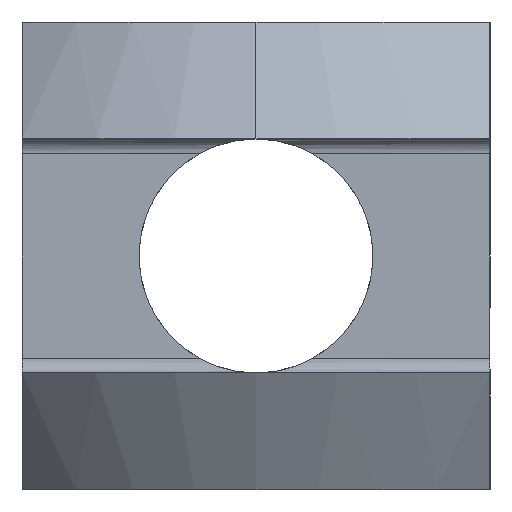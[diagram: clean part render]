
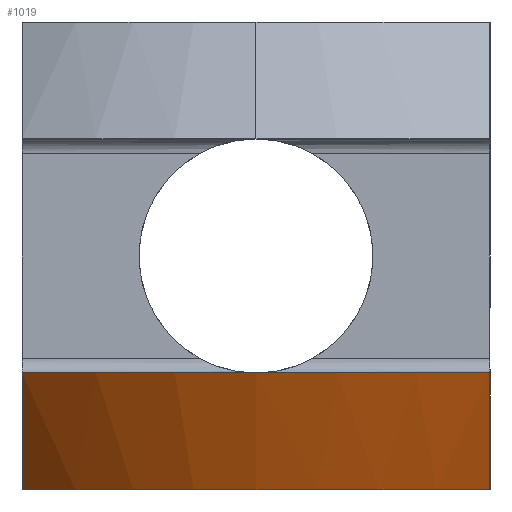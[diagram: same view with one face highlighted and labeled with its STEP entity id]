
A CAD part, left-side view. The second image highlights one B-rep face of the part: STEP entity #1019.
In plain terms, the highlighted conical face has half-angle 30 degrees and reference radius 32 mm.
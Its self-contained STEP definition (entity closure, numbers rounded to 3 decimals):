
#306 = DIRECTION ( 'NONE',  ( 1., 0., 0. ) ) ;
#307 = DIRECTION ( 'NONE',  ( 0., 0., 1. ) ) ;
#308 = AXIS2_PLACEMENT_3D ( 'NONE', #310, #307, #306 ) ;
#310 = CARTESIAN_POINT ( 'NONE',  ( -83., 0., -8. ) ) ;
#311 = CONICAL_SURFACE ( 'NONE', #308, 32., 0.524 ) ;
#312 = FACE_OUTER_BOUND ( 'NONE', #1014, .T. ) ;
#747 = CARTESIAN_POINT ( 'NONE',  ( -110.713, 16., -8. ) ) ;
#748 = CARTESIAN_POINT ( 'NONE',  ( -108.919, 16., -10.691 ) ) ;
#749 = CARTESIAN_POINT ( 'NONE',  ( -107.096, 16., -13.363 ) ) ;
#750 = CARTESIAN_POINT ( 'NONE',  ( -105.22, 16., -16. ) ) ;
#752 = B_SPLINE_CURVE_WITH_KNOTS ( 'NONE', 3,
 ( #750, #749, #748, #747 ),
 .UNSPECIFIED., .F., .F.,
 ( 4, 4 ),
 ( 0.057, 0.067 ),
 .UNSPECIFIED. ) ;
#764 = CARTESIAN_POINT ( 'NONE',  ( -105.22, -16., -16. ) ) ;
#765 = CARTESIAN_POINT ( 'NONE',  ( -107.096, -16., -13.363 ) ) ;
#766 = CARTESIAN_POINT ( 'NONE',  ( -108.919, -16., -10.691 ) ) ;
#767 = CARTESIAN_POINT ( 'NONE',  ( -110.713, -16., -8. ) ) ;
#768 = CARTESIAN_POINT ( 'NONE',  ( -105.22, -16., -16. ) ) ;
#769 = B_SPLINE_CURVE_WITH_KNOTS ( 'NONE', 3,
 ( #767, #766, #765, #764 ),
 .UNSPECIFIED., .F., .F.,
 ( 4, 4 ),
 ( 0.023, 0.033 ),
 .UNSPECIFIED. ) ;
#784 = CARTESIAN_POINT ( 'NONE',  ( -110.713, -16., -8. ) ) ;
#785 = DIRECTION ( 'NONE',  ( 1., 0., 0. ) ) ;
#786 = DIRECTION ( 'NONE',  ( 0., 0., 1. ) ) ;
#787 = CARTESIAN_POINT ( 'NONE',  ( -83., 0., -8. ) ) ;
#788 = AXIS2_PLACEMENT_3D ( 'NONE', #787, #786, #785 ) ;
#789 = CIRCLE ( 'NONE', #788, 32. ) ;
#790 = CARTESIAN_POINT ( 'NONE',  ( -110.713, 16., -8. ) ) ;
#852 = DIRECTION ( 'NONE',  ( 1., 0., 0. ) ) ;
#853 = DIRECTION ( 'NONE',  ( 0., 0., 1. ) ) ;
#854 = CARTESIAN_POINT ( 'NONE',  ( -83., 0., -16. ) ) ;
#855 = AXIS2_PLACEMENT_3D ( 'NONE', #854, #853, #852 ) ;
#856 = CIRCLE ( 'NONE', #855, 27.381 ) ;
#857 = CARTESIAN_POINT ( 'NONE',  ( -105.22, 16., -16. ) ) ;
#1011 = ORIENTED_EDGE ( 'NONE', *, *, #1263, .F. ) ;
#1012 = ORIENTED_EDGE ( 'NONE', *, *, #1303, .T. ) ;
#1014 = EDGE_LOOP ( 'NONE', ( #1015, #1017, #1012, #1011 ) ) ;
#1015 = ORIENTED_EDGE ( 'NONE', *, *, #1280, .F. ) ;
#1017 = ORIENTED_EDGE ( 'NONE', *, *, #1249, .F. ) ;
#1019 = ADVANCED_FACE ( 'NONE', ( #312 ), #311, .T. ) ;
#1249 = EDGE_CURVE ( 'NONE', #1304, #1281, #752, .T. ) ;
#1263 = EDGE_CURVE ( 'NONE', #1282, #1264, #769, .T. ) ;
#1264 = VERTEX_POINT ( 'NONE', #768 ) ;
#1280 = EDGE_CURVE ( 'NONE', #1281, #1282, #789, .T. ) ;
#1281 = VERTEX_POINT ( 'NONE', #790 ) ;
#1282 = VERTEX_POINT ( 'NONE', #784 ) ;
#1303 = EDGE_CURVE ( 'NONE', #1304, #1264, #856, .T. ) ;
#1304 = VERTEX_POINT ( 'NONE', #857 ) ;
